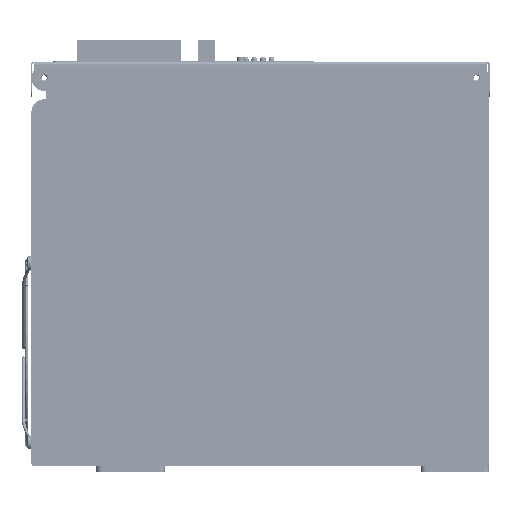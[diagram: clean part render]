
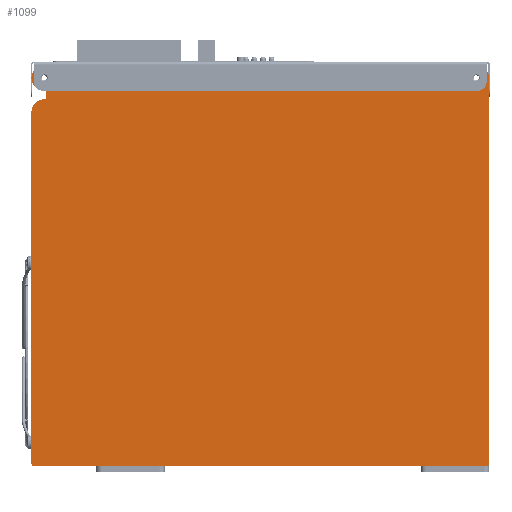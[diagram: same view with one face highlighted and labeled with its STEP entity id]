
A CAD part, front view. The second image highlights one B-rep face of the part: STEP entity #1099.
In plain terms, the highlighted planar face has unit normal (0, -1, 0).
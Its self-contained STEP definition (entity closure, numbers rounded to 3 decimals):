
#1099=ADVANCED_FACE('',(#16777,#16779,#16781),#16783,.F.);
#16777=FACE_BOUND('',#16778,.T.);
#16778=EDGE_LOOP('',(#57584,#57585,#57586,#57587,#57588,#57589,#57590,#57591,#57592,
#57593,#57594,#57595,#57596,#57597,#57598));
#16779=FACE_BOUND('',#16780,.T.);
#16780=EDGE_LOOP('',(#57599));
#16781=FACE_BOUND('',#16782,.T.);
#16782=EDGE_LOOP('',(#57600));
#16783=PLANE('',#16784);
#16784=AXIS2_PLACEMENT_3D('',#16785,#16786,#16787);
#16785=CARTESIAN_POINT('',(-19.,-183.,54.));
#16786=DIRECTION('',(0.,1.,0.));
#16787=DIRECTION('',(-1.,0.,0.));
#57584=ORIENTED_EDGE('',*,*,#90208,.T.);
#57585=ORIENTED_EDGE('',*,*,#90168,.F.);
#57586=ORIENTED_EDGE('',*,*,#88580,.T.);
#57587=ORIENTED_EDGE('',*,*,#90059,.F.);
#57588=ORIENTED_EDGE('',*,*,#90079,.F.);
#57589=ORIENTED_EDGE('',*,*,#90188,.F.);
#57590=ORIENTED_EDGE('',*,*,#90187,.F.);
#57591=ORIENTED_EDGE('',*,*,#90185,.F.);
#57592=ORIENTED_EDGE('',*,*,#90183,.T.);
#57593=ORIENTED_EDGE('',*,*,#90180,.T.);
#57594=ORIENTED_EDGE('',*,*,#90178,.T.);
#57595=ORIENTED_EDGE('',*,*,#90176,.F.);
#57596=ORIENTED_EDGE('',*,*,#90174,.F.);
#57597=ORIENTED_EDGE('',*,*,#90172,.F.);
#57598=ORIENTED_EDGE('',*,*,#90170,.F.);
#57599=ORIENTED_EDGE('',*,*,#90209,.T.);
#57600=ORIENTED_EDGE('',*,*,#90210,.F.);
#88580=EDGE_CURVE('',#102316,#102317,#102318,.F.);
#90059=EDGE_CURVE('',#104870,#102317,#104872,.F.);
#90079=EDGE_CURVE('',#104904,#104870,#104906,.T.);
#90168=EDGE_CURVE('',#102316,#105032,#105035,.T.);
#90170=EDGE_CURVE('',#105003,#105037,#105038,.T.);
#90172=EDGE_CURVE('',#105037,#105040,#105041,.F.);
#90174=EDGE_CURVE('',#105040,#105043,#105044,.T.);
#90176=EDGE_CURVE('',#105043,#105046,#105047,.F.);
#90178=EDGE_CURVE('',#105049,#105046,#105050,.T.);
#90180=EDGE_CURVE('',#105052,#105049,#105053,.T.);
#90183=EDGE_CURVE('',#105055,#105052,#105057,.T.);
#90185=EDGE_CURVE('',#105055,#105058,#105060,.F.);
#90187=EDGE_CURVE('',#105058,#105061,#105063,.T.);
#90188=EDGE_CURVE('',#105064,#104904,#105065,.F.);
#90208=EDGE_CURVE('',#105003,#105032,#105095,.F.);
#90209=EDGE_CURVE('',#105096,#105096,#105097,.T.);
#90210=EDGE_CURVE('',#105098,#105098,#105099,.F.);
#102316=VERTEX_POINT('',#125152);
#102317=VERTEX_POINT('',#125153);
#102318=LINE('',#125154,#125155);
#104870=VERTEX_POINT('',#132249);
#104872=CIRCLE('',#132253,2.);
#104904=VERTEX_POINT('',#132332);
#104906=LINE('',#132336,#132337);
#105003=VERTEX_POINT('',#132571);
#105032=VERTEX_POINT('',#132652);
#105035=LINE('',#132659,#132660);
#105037=VERTEX_POINT('',#132665);
#105038=LINE('',#132666,#132667);
#105040=VERTEX_POINT('',#132672);
#105041=CIRCLE('',#132673,2.);
#105043=VERTEX_POINT('',#132680);
#105044=LINE('',#132681,#132682);
#105046=VERTEX_POINT('',#132687);
#105047=CIRCLE('',#132688,7.5);
#105049=VERTEX_POINT('',#132695);
#105050=LINE('',#132696,#132697);
#105052=VERTEX_POINT('',#132702);
#105053=LINE('',#132703,#132704);
#105055=VERTEX_POINT('',#132709);
#105057=LINE('',#132713,#132714);
#105058=VERTEX_POINT('',#132716);
#105060=CIRCLE('',#132720,7.5);
#105061=VERTEX_POINT('',#132724);
#105063=LINE('',#132728,#132729);
#105064=VERTEX_POINT('',#132731);
#105065=CIRCLE('',#132732,7.5);
#105095=LINE('',#132809,#132810);
#105096=VERTEX_POINT('',#132812);
#105097=CIRCLE('',#132813,4.5);
#105098=VERTEX_POINT('',#132817);
#105099=CIRCLE('',#132818,4.5);
#125152=CARTESIAN_POINT('',(75.,-183.,-63.5));
#125153=CARTESIAN_POINT('',(113.,-183.,-63.5));
#125154=CARTESIAN_POINT('',(113.,-183.,-63.5));
#125155=VECTOR('',#125156,1.);
#125156=DIRECTION('',(-1.,0.,0.));
#132249=CARTESIAN_POINT('',(115.,-183.,-61.5));
#132253=AXIS2_PLACEMENT_3D('',#132254,#132255,#132256);
#132254=CARTESIAN_POINT('',(113.,-183.,-61.5));
#132255=DIRECTION('',(0.,-1.,0.));
#132256=DIRECTION('',(0.,0.,-1.));
#132332=CARTESIAN_POINT('',(115.,-183.,164.));
#132336=CARTESIAN_POINT('',(115.,-183.,164.));
#132337=VECTOR('',#132338,1.);
#132338=DIRECTION('',(0.,0.,-1.));
#132571=CARTESIAN_POINT('',(-115.,-183.,-63.5));
#132652=CARTESIAN_POINT('',(-75.,-183.,-63.5));
#132659=CARTESIAN_POINT('',(75.,-183.,-63.5));
#132660=VECTOR('',#132661,1.);
#132661=DIRECTION('',(-1.,0.,0.));
#132665=CARTESIAN_POINT('',(-151.,-183.,-63.5));
#132666=CARTESIAN_POINT('',(-115.,-183.,-63.5));
#132667=VECTOR('',#132668,1.);
#132668=DIRECTION('',(-1.,0.,0.));
#132672=CARTESIAN_POINT('',(-153.,-183.,-61.5));
#132673=AXIS2_PLACEMENT_3D('',#132674,#132675,#132676);
#132674=CARTESIAN_POINT('',(-151.,-183.,-61.5));
#132675=DIRECTION('',(0.,-1.,0.));
#132676=DIRECTION('',(-1.,0.,0.));
#132680=CARTESIAN_POINT('',(-153.,-183.,144.));
#132681=CARTESIAN_POINT('',(-153.,-183.,-61.5));
#132682=VECTOR('',#132683,1.);
#132683=DIRECTION('',(0.,0.,1.));
#132687=CARTESIAN_POINT('',(-145.5,-183.,151.5));
#132688=AXIS2_PLACEMENT_3D('',#132689,#132690,#132691);
#132689=CARTESIAN_POINT('',(-145.5,-183.,144.));
#132690=DIRECTION('',(0.,-1.,0.));
#132691=DIRECTION('',(0.,0.,1.));
#132695=CARTESIAN_POINT('',(-144.5,-183.,151.5));
#132696=CARTESIAN_POINT('',(-144.5,-183.,151.5));
#132697=VECTOR('',#132698,1.);
#132698=DIRECTION('',(-1.,0.,0.));
#132702=CARTESIAN_POINT('',(-144.5,-183.,156.5));
#132703=CARTESIAN_POINT('',(-144.5,-183.,156.5));
#132704=VECTOR('',#132705,1.);
#132705=DIRECTION('',(0.,0.,-1.));
#132709=CARTESIAN_POINT('',(-145.5,-183.,156.5));
#132713=CARTESIAN_POINT('',(-145.5,-183.,156.5));
#132714=VECTOR('',#132715,1.);
#132715=DIRECTION('',(1.,0.,0.));
#132716=CARTESIAN_POINT('',(-145.5,-183.,171.5));
#132720=AXIS2_PLACEMENT_3D('',#132721,#132722,#132723);
#132721=CARTESIAN_POINT('',(-145.5,-183.,164.));
#132722=DIRECTION('',(0.,-1.,0.));
#132723=DIRECTION('',(0.,0.,1.));
#132724=CARTESIAN_POINT('',(107.5,-183.,171.5));
#132728=CARTESIAN_POINT('',(-145.5,-183.,171.5));
#132729=VECTOR('',#132730,1.);
#132730=DIRECTION('',(1.,0.,0.));
#132731=CARTESIAN_POINT('',(107.5,-183.,171.5));
#132732=AXIS2_PLACEMENT_3D('',#132733,#132734,#132735);
#132733=CARTESIAN_POINT('',(107.5,-183.,164.));
#132734=DIRECTION('',(0.,-1.,0.));
#132735=DIRECTION('',(1.,0.,0.));
#132809=CARTESIAN_POINT('',(-75.,-183.,-63.5));
#132810=VECTOR('',#132811,1.);
#132811=DIRECTION('',(-1.,0.,0.));
#132812=CARTESIAN_POINT('',(103.,-183.,164.));
#132813=AXIS2_PLACEMENT_3D('',#132814,#132815,#132816);
#132814=CARTESIAN_POINT('',(107.5,-183.,164.));
#132815=DIRECTION('',(0.,1.,0.));
#132816=DIRECTION('',(-1.,0.,0.));
#132817=CARTESIAN_POINT('',(-150.,-183.,164.));
#132818=AXIS2_PLACEMENT_3D('',#132819,#132820,#132821);
#132819=CARTESIAN_POINT('',(-145.5,-183.,164.));
#132820=DIRECTION('',(0.,1.,0.));
#132821=DIRECTION('',(-1.,0.,0.));
